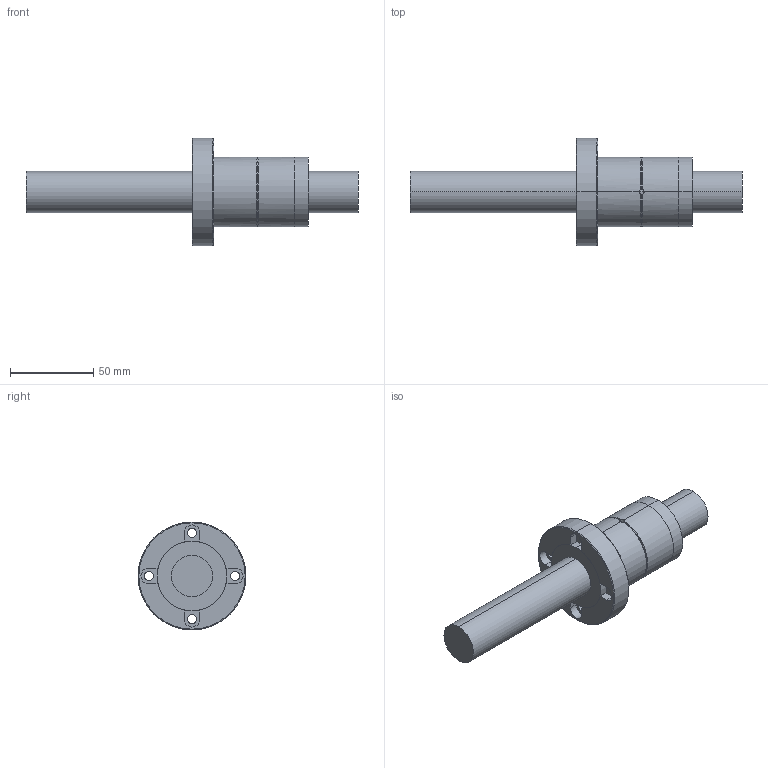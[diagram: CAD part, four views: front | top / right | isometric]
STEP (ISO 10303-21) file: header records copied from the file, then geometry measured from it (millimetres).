
FILE_DESCRIPTION (( 'STEP AP203' ), '1' );
FILE_NAME ('KLF025T4.STEP', '2023-08-17T07:27:33', ( '' ), ( '' ), 'SwSTEP 2.0', 'SolidWorks 2022', '' );
FILE_SCHEMA (( 'CONFIG_CONTROL_DESIGN' ));
Length unit declared in the file: millimetre
Products named in the file (5): KLF025T4; 主体^KLF025T4; 塑胶2^KLF025T4; 零件6^KLF025T4; 塑胶1^KLF025T4
Assembly tree (4 placements, depth 2):
  KLF025T4
    主体^KLF025T4
    塑胶1^KLF025T4
    塑胶2^KLF025T4
    零件6^KLF025T4
Bounding box: 200 x 65 x 65 mm (x, y, z)
Volume: 183279.5 mm3; surface area: 44423.2 mm2
Topology: 4 solids, 4 shells, 67 faces, 171 edges, 110 vertices
Faces by surface type: cylinder 37, plane 22, torus 4, cone 4
Entity records: 2780 total; most frequent: CARTESIAN_POINT 567, DIRECTION 379, ORIENTED_EDGE 342, EDGE_CURVE 171, AXIS2_PLACEMENT_3D 154, VERTEX_POINT 110, EDGE_LOOP 83, CIRCLE 80
